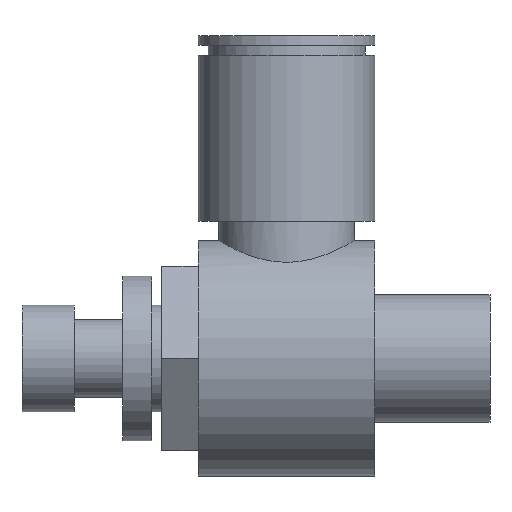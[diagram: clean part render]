
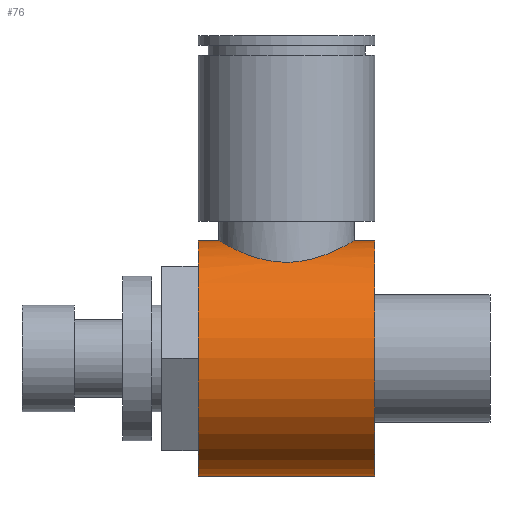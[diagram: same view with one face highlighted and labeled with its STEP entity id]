
A CAD part, left-side view. The second image highlights one B-rep face of the part: STEP entity #76.
In plain terms, the highlighted cylindrical face has radius 12.15 mm (diameter 24.3 mm), a partial arc.
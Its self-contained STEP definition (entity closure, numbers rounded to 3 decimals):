
#76 = ADVANCED_FACE( '', ( #119 ), #120, .T. );
#119 = FACE_OUTER_BOUND( '', #211, .T. );
#120 = CYLINDRICAL_SURFACE( '', #212, 12.15 );
#211 = EDGE_LOOP( '', ( #308, #309, #310, #311, #312, #313, #314 ) );
#212 = AXIS2_PLACEMENT_3D( '', #315, #316, #317 );
#308 = ORIENTED_EDGE( '', *, *, #600, .F. );
#309 = ORIENTED_EDGE( '', *, *, #601, .T. );
#310 = ORIENTED_EDGE( '', *, *, #602, .F. );
#311 = ORIENTED_EDGE( '', *, *, #603, .F. );
#312 = ORIENTED_EDGE( '', *, *, #604, .F. );
#313 = ORIENTED_EDGE( '', *, *, #605, .T. );
#314 = ORIENTED_EDGE( '', *, *, #606, .T. );
#315 = CARTESIAN_POINT( '', ( 0., 15.5, 0. ) );
#316 = DIRECTION( '', ( 0., 1., 0. ) );
#317 = DIRECTION( '', ( 0., 0., 1. ) );
#600 = EDGE_CURVE( '', #690, #691, #692, .T. );
#601 = EDGE_CURVE( '', #690, #693, #694, .T. );
#602 = EDGE_CURVE( '', #695, #693, #696, .T. );
#603 = EDGE_CURVE( '', #697, #695, #698, .T. );
#604 = EDGE_CURVE( '', #699, #697, #700, .T. );
#605 = EDGE_CURVE( '', #699, #701, #702, .T. );
#606 = EDGE_CURVE( '', #701, #691, #703, .T. );
#690 = VERTEX_POINT( '', #835 );
#691 = VERTEX_POINT( '', #836 );
#692 = LINE( '', #837, #838 );
#693 = VERTEX_POINT( '', #839 );
#694 = CIRCLE( '', #840, 12.15 );
#695 = VERTEX_POINT( '', #841 );
#696 = LINE( '', #842, #843 );
#697 = VERTEX_POINT( '', #844 );
#698 = CIRCLE( '', #845, 12.15 );
#699 = VERTEX_POINT( '', #846 );
#700 = LINE( '', #847, #848 );
#701 = VERTEX_POINT( '', #849 );
#702 = B_SPLINE_CURVE_WITH_KNOTS( '', 3, ( #850, #851, #852, #853, #854, #855, #856, #857, #858, #859, #860, #861, #862, #863, #864, #865, #866, #867 ), .UNSPECIFIED., .F., .F., ( 4, 2, 2, 2, 2, 2, 2, 2, 4 ), ( 32.547, 33.9, 35.252, 36.605, 37.958, 39.317, 40.677, 42.037, 43.396 ), .UNSPECIFIED. );
#703 = B_SPLINE_CURVE_WITH_KNOTS( '', 3, ( #868, #869, #870, #871, #872, #873, #874, #875, #876, #877, #878, #879, #880, #881, #882, #883, #884, #885 ), .UNSPECIFIED., .F., .F., ( 4, 2, 2, 2, 2, 2, 2, 2, 4 ), ( 0., 1.36, 2.719, 4.079, 5.439, 6.792, 8.144, 9.497, 10.849 ), .UNSPECIFIED. );
#835 = CARTESIAN_POINT( '', ( 0., 24.6, 12.15 ) );
#836 = CARTESIAN_POINT( '', ( 0., 22.5, 12.15 ) );
#837 = CARTESIAN_POINT( '', ( 0., 15.5, 12.15 ) );
#838 = VECTOR( '', #1084, 1. );
#839 = CARTESIAN_POINT( '', ( 0., 24.6, -12.15 ) );
#840 = AXIS2_PLACEMENT_3D( '', #1085, #1086, #1087 );
#841 = CARTESIAN_POINT( '', ( 0., 6.4, -12.15 ) );
#842 = CARTESIAN_POINT( '', ( 0., 15.5, -12.15 ) );
#843 = VECTOR( '', #1088, 1. );
#844 = CARTESIAN_POINT( '', ( 0., 6.4, 12.15 ) );
#845 = AXIS2_PLACEMENT_3D( '', #1089, #1090, #1091 );
#846 = CARTESIAN_POINT( '', ( 0., 8.5, 12.15 ) );
#847 = CARTESIAN_POINT( '', ( 0., 15.5, 12.15 ) );
#848 = VECTOR( '', #1092, 1. );
#849 = CARTESIAN_POINT( '', ( -7., 15.5, 9.931 ) );
#850 = CARTESIAN_POINT( '', ( 0., 8.5, 12.15 ) );
#851 = CARTESIAN_POINT( '', ( -0.451, 8.5, 12.15 ) );
#852 = CARTESIAN_POINT( '', ( -0.914, 8.544, 12.124 ) );
#853 = CARTESIAN_POINT( '', ( -1.828, 8.727, 12.021 ) );
#854 = CARTESIAN_POINT( '', ( -2.279, 8.865, 11.942 ) );
#855 = CARTESIAN_POINT( '', ( -3.139, 9.226, 11.746 ) );
#856 = CARTESIAN_POINT( '', ( -3.548, 9.449, 11.627 ) );
#857 = CARTESIAN_POINT( '', ( -4.302, 9.959, 11.37 ) );
#858 = CARTESIAN_POINT( '', ( -4.646, 10.246, 11.232 ) );
#859 = CARTESIAN_POINT( '', ( -5.255, 10.856, 10.96 ) );
#860 = CARTESIAN_POINT( '', ( -5.543, 11.201, 10.816 ) );
#861 = CARTESIAN_POINT( '', ( -6.053, 11.954, 10.539 ) );
#862 = CARTESIAN_POINT( '', ( -6.275, 12.362, 10.407 ) );
#863 = CARTESIAN_POINT( '', ( -6.634, 13.22, 10.181 ) );
#864 = CARTESIAN_POINT( '', ( -6.772, 13.67, 10.088 ) );
#865 = CARTESIAN_POINT( '', ( -6.955, 14.583, 9.963 ) );
#866 = CARTESIAN_POINT( '', ( -7., 15.047, 9.931 ) );
#867 = CARTESIAN_POINT( '', ( -7., 15.5, 9.931 ) );
#868 = CARTESIAN_POINT( '', ( -7., 15.5, 9.931 ) );
#869 = CARTESIAN_POINT( '', ( -7., 15.953, 9.931 ) );
#870 = CARTESIAN_POINT( '', ( -6.955, 16.417, 9.963 ) );
#871 = CARTESIAN_POINT( '', ( -6.772, 17.33, 10.088 ) );
#872 = CARTESIAN_POINT( '', ( -6.634, 17.78, 10.181 ) );
#873 = CARTESIAN_POINT( '', ( -6.275, 18.638, 10.407 ) );
#874 = CARTESIAN_POINT( '', ( -6.053, 19.046, 10.539 ) );
#875 = CARTESIAN_POINT( '', ( -5.543, 19.799, 10.816 ) );
#876 = CARTESIAN_POINT( '', ( -5.255, 20.144, 10.96 ) );
#877 = CARTESIAN_POINT( '', ( -4.646, 20.754, 11.232 ) );
#878 = CARTESIAN_POINT( '', ( -4.302, 21.041, 11.37 ) );
#879 = CARTESIAN_POINT( '', ( -3.548, 21.551, 11.627 ) );
#880 = CARTESIAN_POINT( '', ( -3.139, 21.774, 11.746 ) );
#881 = CARTESIAN_POINT( '', ( -2.279, 22.135, 11.942 ) );
#882 = CARTESIAN_POINT( '', ( -1.828, 22.273, 12.021 ) );
#883 = CARTESIAN_POINT( '', ( -0.914, 22.456, 12.124 ) );
#884 = CARTESIAN_POINT( '', ( -0.451, 22.5, 12.15 ) );
#885 = CARTESIAN_POINT( '', ( 0., 22.5, 12.15 ) );
#1084 = DIRECTION( '', ( 0., -1., 0. ) );
#1085 = CARTESIAN_POINT( '', ( 0., 24.6, 0. ) );
#1086 = DIRECTION( '', ( 0., -1., 0. ) );
#1087 = DIRECTION( '', ( 0., 0., 1. ) );
#1088 = DIRECTION( '', ( 0., 1., 0. ) );
#1089 = CARTESIAN_POINT( '', ( 0., 6.4, 0. ) );
#1090 = DIRECTION( '', ( 0., -1., 0. ) );
#1091 = DIRECTION( '', ( 0., 0., 1. ) );
#1092 = DIRECTION( '', ( 0., -1., 0. ) );
